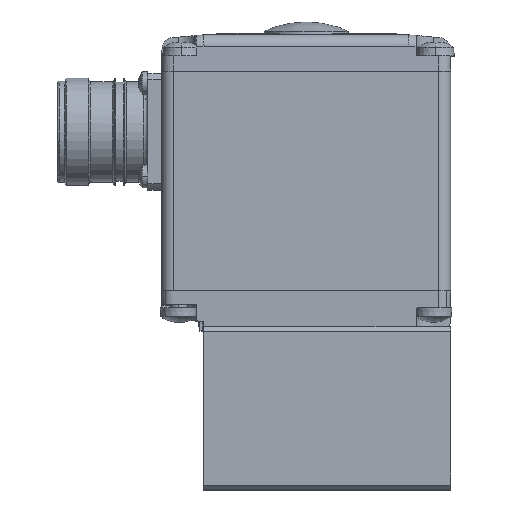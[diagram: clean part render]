
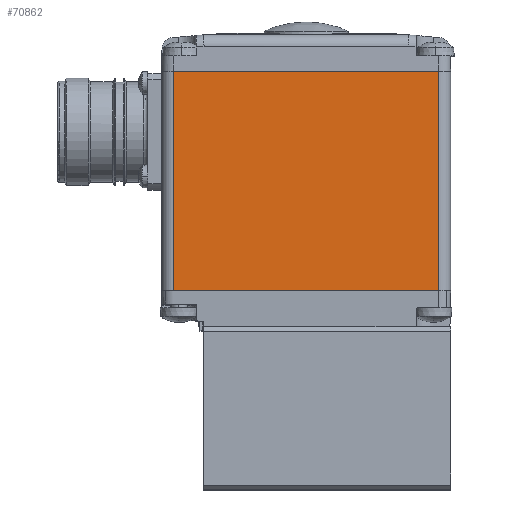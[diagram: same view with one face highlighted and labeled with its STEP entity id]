
A CAD part, top view. The second image highlights one B-rep face of the part: STEP entity #70862.
In plain terms, the highlighted planar face has unit normal (0, 0, 1).
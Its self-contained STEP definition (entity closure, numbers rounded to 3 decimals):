
#3161 = CARTESIAN_POINT ( 'NONE',  ( -2.5, 72.3, 17.65 ) ) ;
#3174 = CARTESIAN_POINT ( 'NONE',  ( -59.5, 72.3, 17.65 ) ) ;
#4970 = PLANE ( 'NONE',  #74514 ) ;
#4978 = CARTESIAN_POINT ( 'NONE',  ( -59.5, 72.3, 17.65 ) ) ;
#4979 = DIRECTION ( 'NONE',  ( 0., 0., -1. ) ) ;
#4980 = DIRECTION ( 'NONE',  ( 1., 0., 0. ) ) ;
#9888 = VECTOR ( 'NONE', #28049, 1000. ) ;
#15876 = CARTESIAN_POINT ( 'NONE',  ( -59.5, 25.3, 17.65 ) ) ;
#15883 = CARTESIAN_POINT ( 'NONE',  ( -2.5, 25.3, 17.65 ) ) ;
#19053 = LINE ( 'NONE', #28073, #19056 ) ;
#19056 = VECTOR ( 'NONE', #28078, 1000. ) ;
#27974 = CARTESIAN_POINT ( 'NONE',  ( -59.5, 72.3, 17.65 ) ) ;
#27977 = DIRECTION ( 'NONE',  ( 0., -1., 0. ) ) ;
#28044 = CARTESIAN_POINT ( 'NONE',  ( -2.5, 72.3, 17.65 ) ) ;
#28049 = DIRECTION ( 'NONE',  ( 0., -1., 0. ) ) ;
#28073 = CARTESIAN_POINT ( 'NONE',  ( -59.5, 72.3, 17.65 ) ) ;
#28078 = DIRECTION ( 'NONE',  ( -1., 0., 0. ) ) ;
#34894 = LINE ( 'NONE', #27974, #34897 ) ;
#34897 = VECTOR ( 'NONE', #27977, 1000. ) ;
#34925 = LINE ( 'NONE', #28044, #9888 ) ;
#35198 = EDGE_CURVE ( 'NONE', #63121, #63117, #42796, .T. ) ;
#38903 = EDGE_CURVE ( 'NONE', #67816, #63117, #34894, .T. ) ;
#38911 = EDGE_CURVE ( 'NONE', #67803, #63121, #34925, .T. ) ;
#38912 = EDGE_CURVE ( 'NONE', #67803, #67816, #19053, .T. ) ;
#42796 = LINE ( 'NONE', #51178, #42804 ) ;
#42804 = VECTOR ( 'NONE', #51183, 1000. ) ;
#51178 = CARTESIAN_POINT ( 'NONE',  ( -59.5, 25.3, 17.65 ) ) ;
#51183 = DIRECTION ( 'NONE',  ( -1., 0., 0. ) ) ;
#54039 = ORIENTED_EDGE ( 'NONE', *, *, #35198, .F. ) ;
#54040 = ORIENTED_EDGE ( 'NONE', *, *, #38911, .F. ) ;
#54041 = ORIENTED_EDGE ( 'NONE', *, *, #38912, .T. ) ;
#54042 = ORIENTED_EDGE ( 'NONE', *, *, #38903, .T. ) ;
#63117 = VERTEX_POINT ( 'NONE', #15876 ) ;
#63121 = VERTEX_POINT ( 'NONE', #15883 ) ;
#67803 = VERTEX_POINT ( 'NONE', #3161 ) ;
#67816 = VERTEX_POINT ( 'NONE', #3174 ) ;
#68053 = EDGE_LOOP ( 'NONE', ( #54039, #54040, #54041, #54042 ) ) ;
#69647 = FACE_OUTER_BOUND ( 'NONE', #68053, .T. ) ;
#70862 = ADVANCED_FACE ( 'NONE', ( #69647 ), #4970, .F. ) ;
#74514 = AXIS2_PLACEMENT_3D ( 'NONE', #4978, #4979, #4980 ) ;
